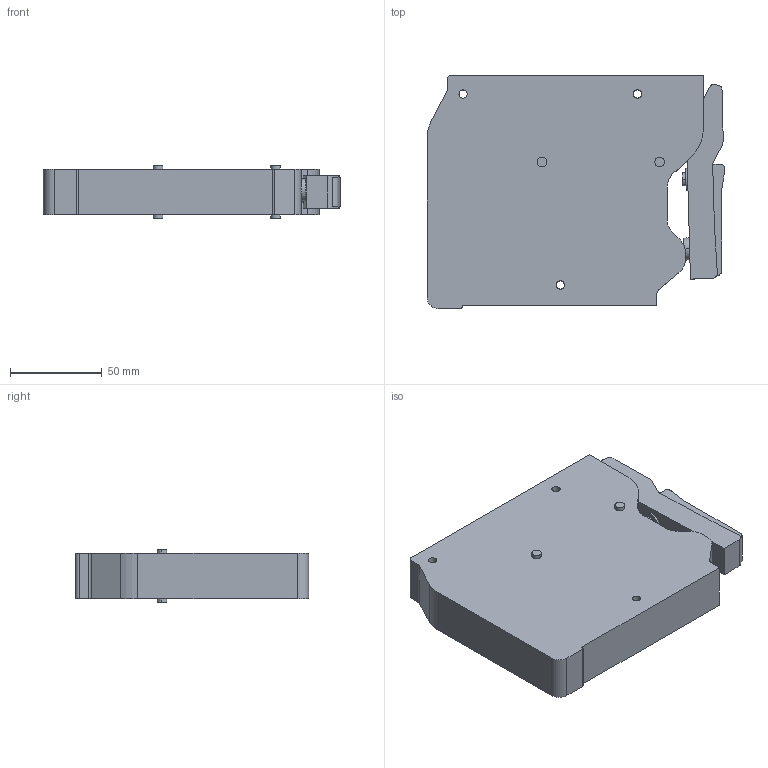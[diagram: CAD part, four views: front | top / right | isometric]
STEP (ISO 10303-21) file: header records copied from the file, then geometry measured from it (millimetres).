
FILE_DESCRIPTION (( 'STEP AP214' ), '1' );
FILE_NAME ('SQ02BC(H,L,M)-close.STEP', '2021-04-10T02:26:48', ( 'Windows 蚚誧' ), ( '' ), 'SwSTEP 2.0', 'SolidWorks 2018', '' );
FILE_SCHEMA (( 'AUTOMOTIVE_DESIGN' ));
Length unit declared in the file: millimetre
Products named in the file (1): SQ02BC(H,L,M)-close
Bounding box: 162.03 x 127 x 28.8 mm (x, y, z)
Volume: 459391.5 mm3; surface area: 55196.3 mm2
Topology: 1 solids, 1 shells, 89 faces, 246 edges, 164 vertices
Faces by surface type: plane 45, cylinder 40, bspline 4
Entity records: 3693 total; most frequent: CARTESIAN_POINT 629, ORIENTED_EDGE 492, DIRECTION 484, EDGE_CURVE 246, AXIS2_PLACEMENT_3D 168, VERTEX_POINT 164, VECTOR 148, LINE 148
